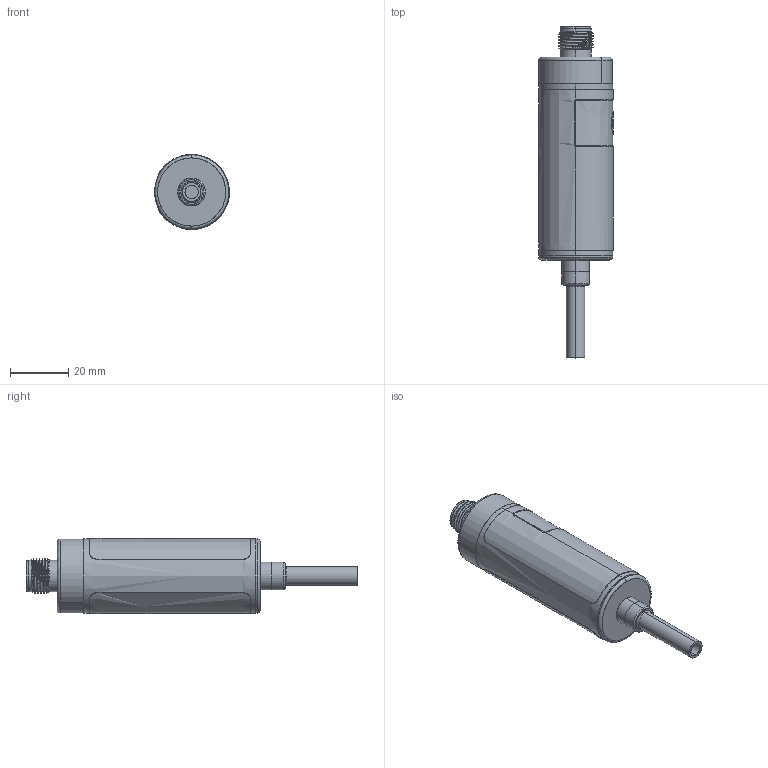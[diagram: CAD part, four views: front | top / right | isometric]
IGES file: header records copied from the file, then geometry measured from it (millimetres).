
Start section: SolidWorks IGES file using analytic representation for surfaces
Global section: file name: R:\Brooks Instrument\25-0024 SSII CAD File Generation\Client Files\SSII CAD Models for Website\CAD for Brooks Website\Example\GSD\GSD-XXXXXX-Q-XXX-4S\IGES\GSD-XXXXXX-Q-XXX-4S.IGS; native system: SolidWorks 2023; preprocessor: SolidWorks 2023; author: dgoddard; date: 250623.112707; units: inch
Bounding box: 25.65 x 113.93 x 25.76 mm (x, y, z)
Surface area: 14595.1 mm2 (no closed solid volume)
Topology: 0 solids, 0 shells, 212 faces, 2901 edges, 2893 vertices
Faces by surface type: bspline 116, revolution 96
